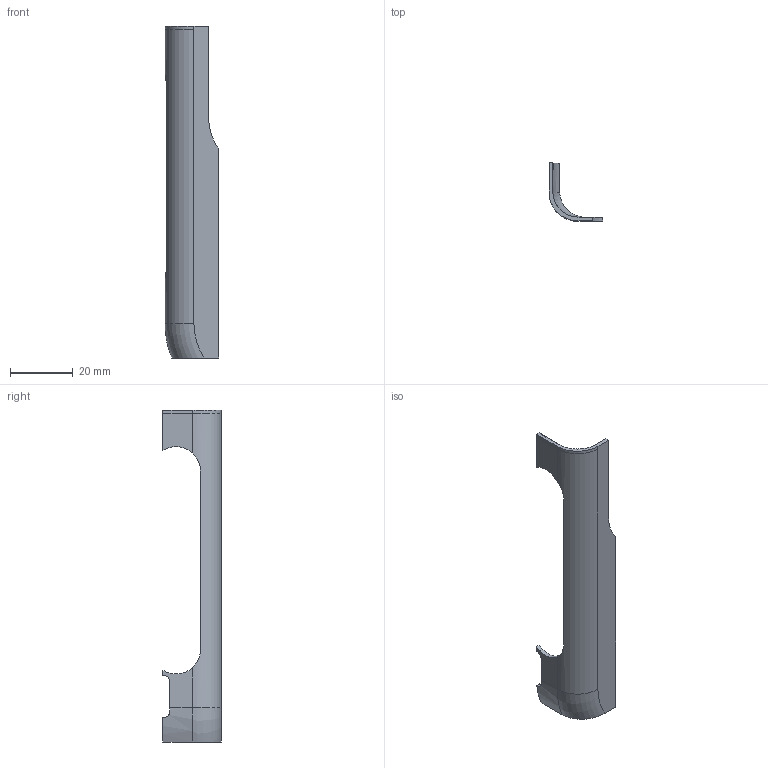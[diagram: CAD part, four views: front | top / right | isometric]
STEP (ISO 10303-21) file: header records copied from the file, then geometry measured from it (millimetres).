
FILE_DESCRIPTION(('Open CASCADE Model'),'2;1');
FILE_NAME('front_grip_skin_finegrain_cream','2026-09-06T11:35:11',( 'Author'),('Open CASCADE'),'Open CASCADE STEP processor 7.8', 'build123d','Unknown');
FILE_SCHEMA(('AUTOMOTIVE_DESIGN { 1 0 10303 214 1 1 1 1 }'));
Length unit declared in the file: millimetre
Products named in the file (1): front_grip_skin_finegrain_cream
Bounding box: 17.2 x 18.6 x 106 mm (x, y, z)
Volume: 2725.6 mm3; surface area: 4937.7 mm2
Topology: 1 solids, 1 shells, 42 faces, 115 edges, 74 vertices
Faces by surface type: plane 27, cylinder 11, torus 4
Entity records: 3326 total; most frequent: CARTESIAN_POINT 1149, DIRECTION 364, ORIENTED_EDGE 230, PCURVE 230, DEFINITIONAL_REPRESENTATION 230, LINE 218, VECTOR 218, EDGE_CURVE 115
